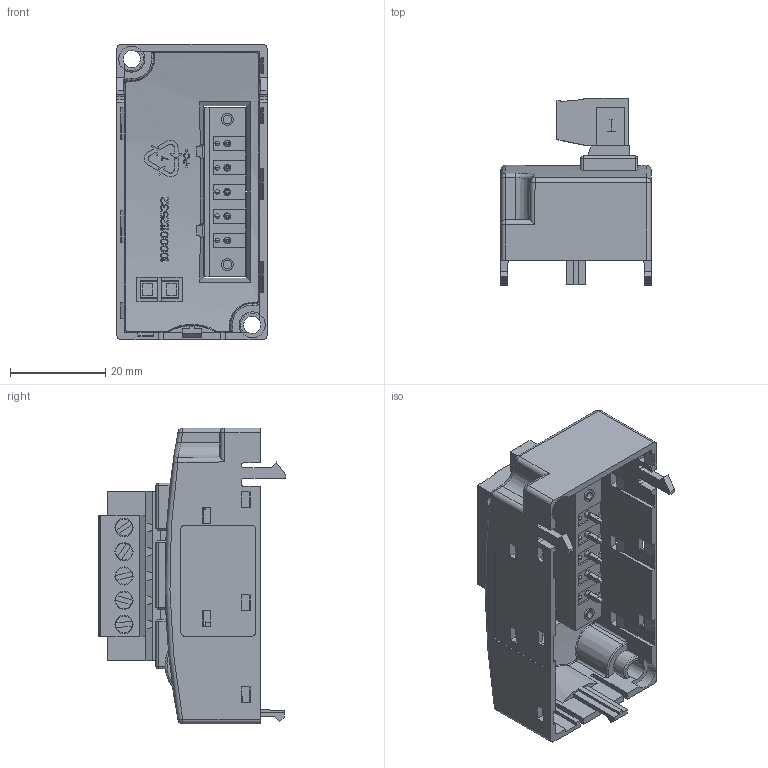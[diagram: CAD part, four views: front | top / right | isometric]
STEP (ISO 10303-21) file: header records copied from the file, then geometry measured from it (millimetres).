
FILE_DESCRIPTION((''),'2;1');
FILE_NAME('PROPOSALWORKS_SW0001','2013-11-26T',('skang'),('Rockwell Automation'),'PRO/ENGINEER BY PARAMETRIC TECHNOLOGY CORPORATION, 2010140','PRO/ENGINEER BY PARAMETRIC TECHNOLOGY CORPORATION, 2010140','');
FILE_SCHEMA(('CONFIG_CONTROL_DESIGN'));
Length unit declared in the file: millimetre
Products named in the file (1): PROPOSALWORKS_SW0001
Bounding box: 31.5 x 39.3 x 62 mm (x, y, z)
Volume: 13561.6 mm3; surface area: 16403.2 mm2
Topology: 2 solids, 2 shells, 1460 faces, 4083 edges, 2649 vertices
Faces by surface type: plane 1102, cylinder 201, extrusion 56, bspline 39, cone 34, sphere 22, torus 6
Entity records: 49375 total; most frequent: CARTESIAN_POINT 13631, ORIENTED_EDGE 8146, DIRECTION 6298, EDGE_CURVE 4073, VERTEX_POINT 2649, VECTOR 2458, LINE 2402, AXIS2_PLACEMENT_3D 1920
